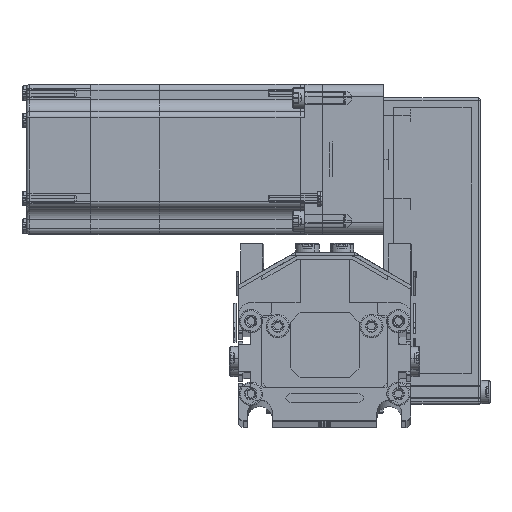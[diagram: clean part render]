
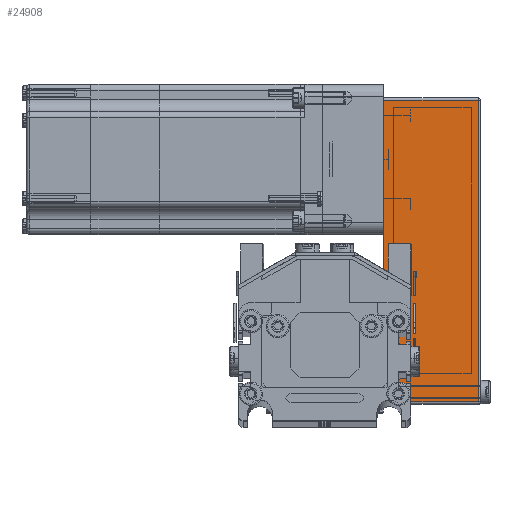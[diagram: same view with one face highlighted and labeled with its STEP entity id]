
A CAD part, top view. The second image highlights one B-rep face of the part: STEP entity #24908.
In plain terms, the highlighted planar face has unit normal (0, 0, 1) as drawn and (0, 1, 0) by its records, which use the part's own axes.
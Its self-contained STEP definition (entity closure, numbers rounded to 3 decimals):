
#24795 = VERTEX_POINT ( 'NONE', #103390 ) ;
#24805 = EDGE_CURVE ( 'NONE', #24815, #24795, #103488, .T. ) ;
#24808 = EDGE_CURVE ( 'NONE', #24795, #24920, #103471, .T. ) ;
#24815 = VERTEX_POINT ( 'NONE', #103476 ) ;
#24873 = EDGE_CURVE ( 'NONE', #24934, #24815, #103594, .T. ) ;
#24875 = ORIENTED_EDGE ( 'NONE', *, *, #24873, .T. ) ;
#24908 = ADVANCED_FACE ( 'NONE', ( #103550 ), #103573, .F. ) ;
#24917 = ORIENTED_EDGE ( 'NONE', *, *, #24805, .T. ) ;
#24920 = VERTEX_POINT ( 'NONE', #103580 ) ;
#24923 = EDGE_CURVE ( 'NONE', #24920, #24934, #103656, .T. ) ;
#24931 = ORIENTED_EDGE ( 'NONE', *, *, #24923, .T. ) ;
#24934 = VERTEX_POINT ( 'NONE', #103658 ) ;
#25021 = ORIENTED_EDGE ( 'NONE', *, *, #24808, .T. ) ;
#25047 = EDGE_LOOP ( 'NONE', ( #24917, #25021, #24931, #24875 ) ) ;
#103390 = CARTESIAN_POINT ( 'NONE',  ( -49., 25., 0. ) ) ;
#103467 = DIRECTION ( 'NONE',  ( 0., 0., 1. ) ) ;
#103468 = VECTOR ( 'NONE', #103467, 1000. ) ;
#103470 = CARTESIAN_POINT ( 'NONE',  ( -49., 25., 39.5 ) ) ;
#103471 = LINE ( 'NONE', #103470, #103468 ) ;
#103476 = CARTESIAN_POINT ( 'NONE',  ( 73.5, 25., 0. ) ) ;
#103478 = DIRECTION ( 'NONE',  ( -1., 0., 0. ) ) ;
#103480 = VECTOR ( 'NONE', #103478, 1000. ) ;
#103483 = CARTESIAN_POINT ( 'NONE',  ( -50., 25., 0. ) ) ;
#103488 = LINE ( 'NONE', #103483, #103480 ) ;
#103550 = FACE_OUTER_BOUND ( 'NONE', #25047, .T. ) ;
#103554 = CARTESIAN_POINT ( 'NONE',  ( 74.5, 25., 38.5 ) ) ;
#103573 = PLANE ( 'NONE',  #103665 ) ;
#103580 = CARTESIAN_POINT ( 'NONE',  ( -49., 25., 38.5 ) ) ;
#103582 = DIRECTION ( 'NONE',  ( 0., 0., -1. ) ) ;
#103584 = VECTOR ( 'NONE', #103582, 1000. ) ;
#103593 = CARTESIAN_POINT ( 'NONE',  ( 73.5, 25., 39.5 ) ) ;
#103594 = LINE ( 'NONE', #103593, #103584 ) ;
#103637 = DIRECTION ( 'NONE',  ( 1., 0., 0. ) ) ;
#103639 = VECTOR ( 'NONE', #103637, 1000. ) ;
#103653 = DIRECTION ( 'NONE',  ( 0., 0., -1. ) ) ;
#103654 = DIRECTION ( 'NONE',  ( 0., -1., 0. ) ) ;
#103655 = CARTESIAN_POINT ( 'NONE',  ( -50., 25., 39.5 ) ) ;
#103656 = LINE ( 'NONE', #103554, #103639 ) ;
#103658 = CARTESIAN_POINT ( 'NONE',  ( 73.5, 25., 38.5 ) ) ;
#103665 = AXIS2_PLACEMENT_3D ( 'NONE', #103655, #103654, #103653 ) ;
